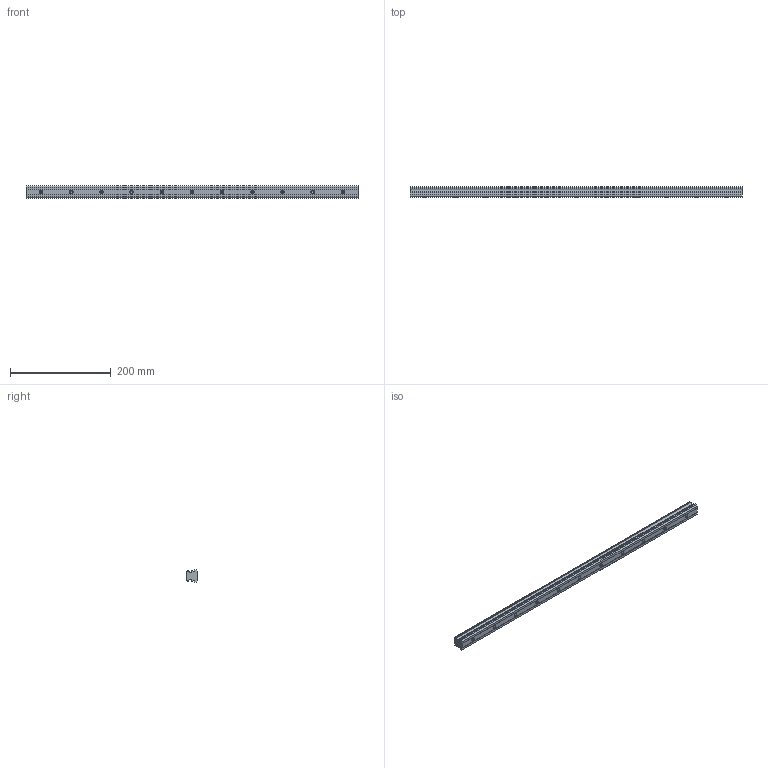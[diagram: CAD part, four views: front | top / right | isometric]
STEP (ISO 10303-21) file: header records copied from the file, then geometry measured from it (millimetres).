
FILE_DESCRIPTION (( 'STEP AP203' ), '1' );
FILE_NAME ('L1018.25R-0660.step', '2023-08-06T10:33:54', ( '' ), ( '' ), 'SwSTEP 2.0', 'SolidWorks 2019', '' );
FILE_SCHEMA (( 'CONFIG_CONTROL_DESIGN' ));
Length unit declared in the file: millimetre
Products named in the file (1): L1018.25R-0660
Bounding box: 660 x 21.8 x 25 mm (x, y, z)
Volume: 274486.1 mm3; surface area: 66383 mm2
Topology: 1 solids, 1 shells, 128 faces, 301 edges, 175 vertices
Faces by surface type: cylinder 47, cone 44, plane 37
Entity records: 3572 total; most frequent: DIRECTION 653, CARTESIAN_POINT 583, ORIENTED_EDGE 558, EDGE_CURVE 279, AXIS2_PLACEMENT_3D 245, VERTEX_POINT 175, VECTOR 163, LINE 163
